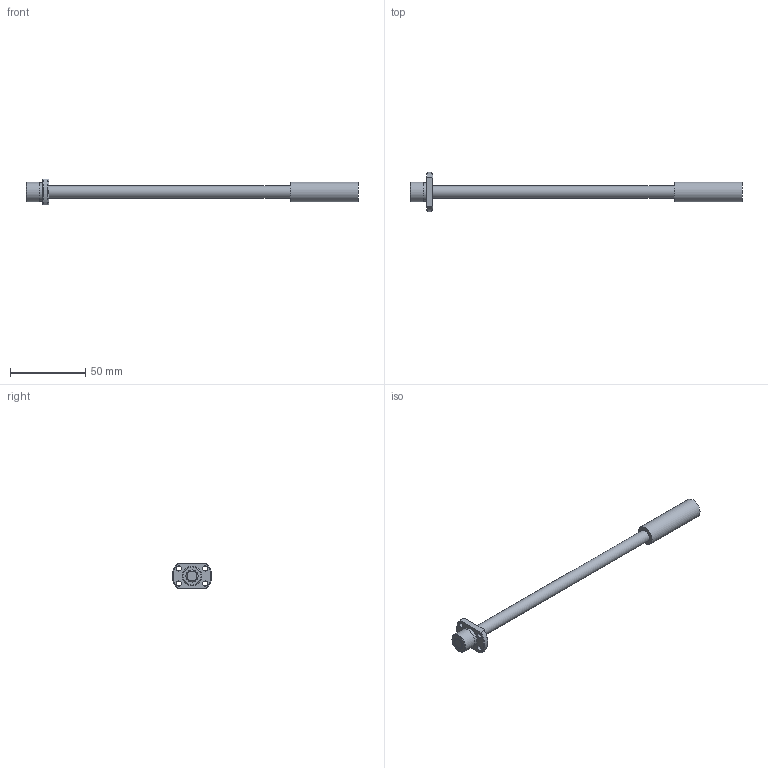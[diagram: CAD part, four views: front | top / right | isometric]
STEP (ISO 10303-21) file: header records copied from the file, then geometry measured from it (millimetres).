
FILE_DESCRIPTION( ( 'STEP AP203' ), '1' );
FILE_NAME( 'e:/temp/worker_95/temp/exporttempdir_3904_838_n2v6r/format_0/SRT0801K-171R220C10A0X(A0UT0X).stp', '2021-10-19T06:04:54', ( 'License CC BY-ND 4.0' ), ( 'CADENAS' ), ' ', 'PARTsolutions', ' ' );
FILE_SCHEMA( ( 'CONFIG_CONTROL_DESIGN' ) );
Length unit declared in the file: millimetre
Products named in the file (3): SRT0801K-171R220C10A0X(A0UT0X); _6AUT; _SR0801K_nut
Assembly tree (2 placements, depth 2):
  SRT0801K-171R220C10A0X(A0UT0X)
    _6AUT
    _SR0801K_nut
Bounding box: 220 x 25.92 x 17 mm (x, y, z)
Volume: 16925.3 mm3; surface area: 8413.5 mm2
Topology: 2 solids, 2 shells, 26 faces, 55 edges, 36 vertices
Faces by surface type: cylinder 11, plane 9, cone 6
Full cylindrical faces by diameter (mm): 3.4 x4, 8 x2, 12.6 x1, 13 x2
Entity records: 792 total; most frequent: CARTESIAN_POINT 133, DIRECTION 122, ORIENTED_EDGE 88, AXIS2_PLACEMENT_3D 57, EDGE_LOOP 50, EDGE_CURVE 44, VERTEX_POINT 36, FACE_OUTER_BOUND 35
